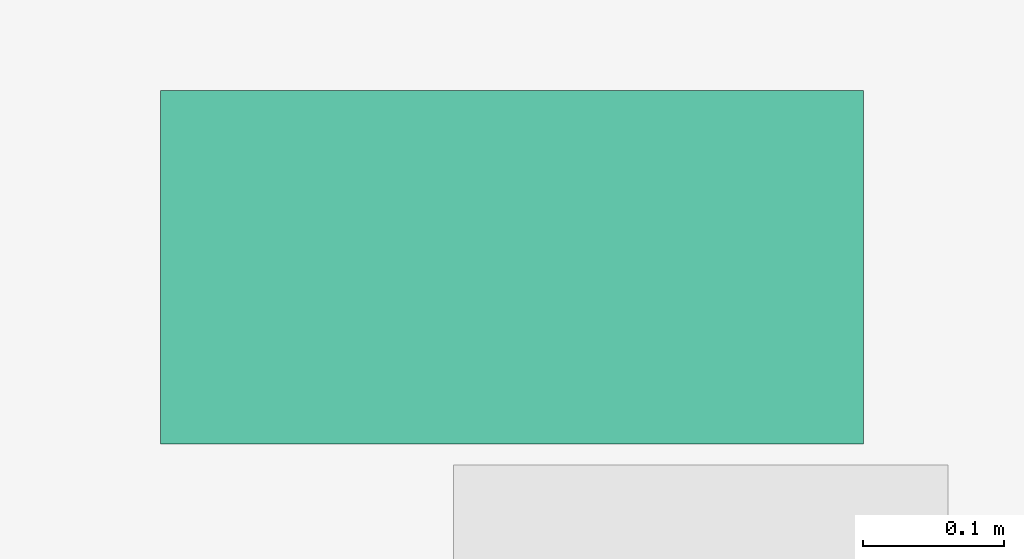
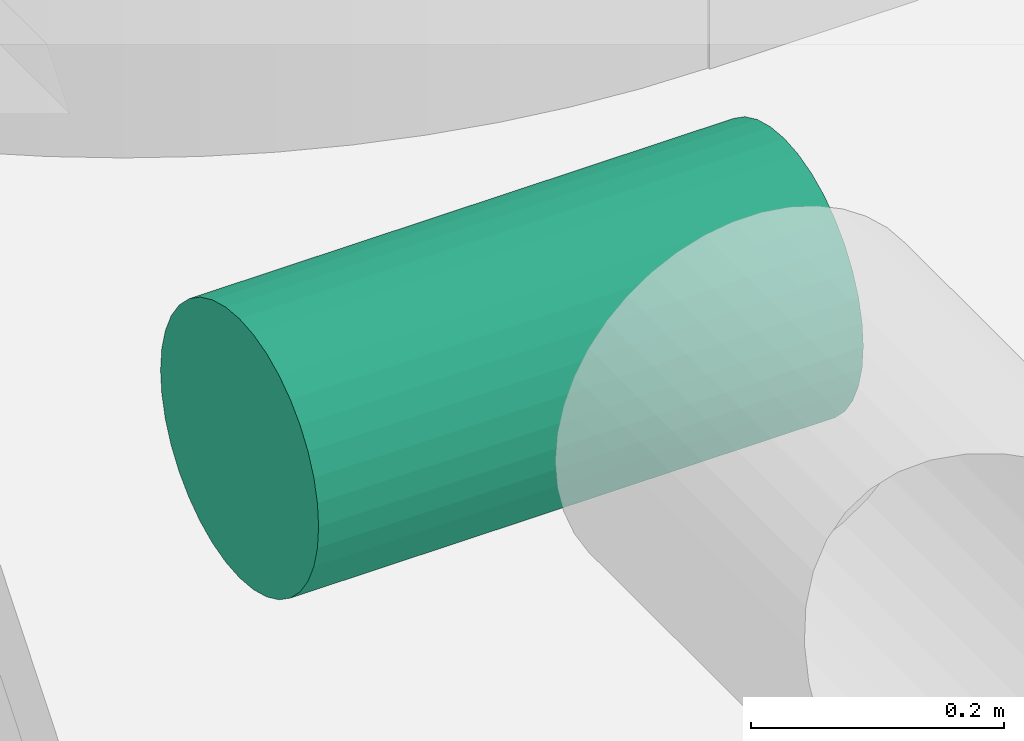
# One storey, part 82 of 128: 1 distribution control element.
"""IFC2X3 building model written with IfcOpenShell, lengths in millimetres."""

from ifc_helpers import new_model, entity, si_unit, converted_unit, derived_unit, direction, frame, origin, origin_2d_with_axis, place, context, subcontext, project, spatial, circle, extrude, source, transform, mapped, material, type_object, type_shapes, element, save


model = new_model("IFC2X3")

# Units and contexts
model_context = context("Model", 3, precision=0.01, world=origin(), true_north=direction((6.123031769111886e-17, 1.0)))
body_context = subcontext(model_context, "Body", "Model", "MODEL_VIEW")
ifc_project = project(units=[si_unit("LENGTHUNIT", "METRE", prefix="MILLI"), si_unit("AREAUNIT", "SQUARE_METRE"), si_unit("VOLUMEUNIT", "CUBIC_METRE"), converted_unit("PLANEANGLEUNIT", "DEGREE", entity("IfcRatioMeasure", 0.017453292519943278), si_unit("PLANEANGLEUNIT", "RADIAN"), dimensions=[0, 0, 0, 0, 0, 0, 0]), si_unit("MASSUNIT", "GRAM", prefix="KILO"), derived_unit("MASSDENSITYUNIT", [(si_unit("MASSUNIT", "GRAM", prefix="KILO"), 1), (si_unit("LENGTHUNIT", "METRE"), -3)]), derived_unit("IONCONCENTRATIONUNIT", [(si_unit("MASSUNIT", "GRAM", prefix="KILO"), 1), (si_unit("LENGTHUNIT", "METRE"), -3)]), derived_unit("MOMENTOFINERTIAUNIT", [(si_unit("LENGTHUNIT", "METRE"), 4)]), si_unit("TIMEUNIT", "SECOND"), si_unit("FREQUENCYUNIT", "HERTZ"), si_unit("THERMODYNAMICTEMPERATUREUNIT", "DEGREE_CELSIUS"), derived_unit("THERMALTRANSMITTANCEUNIT", [(si_unit("MASSUNIT", "GRAM", prefix="KILO"), 1), (si_unit("THERMODYNAMICTEMPERATUREUNIT", "KELVIN"), -1), (si_unit("TIMEUNIT", "SECOND"), -3)]), derived_unit("THERMALCONDUCTANCEUNIT", [(si_unit("MASSUNIT", "GRAM", prefix="KILO"), 1), (si_unit("THERMODYNAMICTEMPERATUREUNIT", "KELVIN"), -1), (si_unit("TIMEUNIT", "SECOND"), -3), (si_unit("LENGTHUNIT", "METRE"), 1)]), derived_unit("VOLUMETRICFLOWRATEUNIT", [(si_unit("LENGTHUNIT", "METRE"), 3), (si_unit("TIMEUNIT", "SECOND"), -1)]), derived_unit("MASSFLOWRATEUNIT", [(si_unit("MASSUNIT", "GRAM", prefix="KILO"), 1), (si_unit("TIMEUNIT", "SECOND"), -1)]), derived_unit("ROTATIONALFREQUENCYUNIT", [(si_unit("TIMEUNIT", "SECOND"), -1)]), si_unit("ELECTRICCURRENTUNIT", "AMPERE"), si_unit("ELECTRICVOLTAGEUNIT", "VOLT"), si_unit("POWERUNIT", "WATT"), si_unit("FORCEUNIT", "NEWTON", prefix="KILO"), si_unit("ILLUMINANCEUNIT", "LUX"), si_unit("LUMINOUSFLUXUNIT", "LUMEN"), si_unit("LUMINOUSINTENSITYUNIT", "CANDELA"), derived_unit("USERDEFINED", [(si_unit("MASSUNIT", "GRAM", prefix="KILO"), -1), (si_unit("LENGTHUNIT", "METRE"), -2), (si_unit("TIMEUNIT", "SECOND"), 3), (si_unit("LUMINOUSFLUXUNIT", "LUMEN"), 1)]), derived_unit("USERDEFINED", [(si_unit("MASSUNIT", "GRAM", prefix="KILO"), 1), (si_unit("TIMEUNIT", "SECOND"), -3), (si_unit("LENGTHUNIT", "METRE"), 3), (si_unit("ELECTRICCURRENTUNIT", "AMPERE"), -2)]), derived_unit("SOUNDPOWERUNIT", [(si_unit("MASSUNIT", "GRAM", prefix="KILO"), 1), (si_unit("TIMEUNIT", "SECOND"), -3), (si_unit("LENGTHUNIT", "METRE"), 2)]), derived_unit("SOUNDPRESSUREUNIT", [(si_unit("MASSUNIT", "GRAM", prefix="KILO"), 1), (si_unit("LENGTHUNIT", "METRE"), -1), (si_unit("TIMEUNIT", "SECOND"), -2)]), derived_unit("LINEARVELOCITYUNIT", [(si_unit("LENGTHUNIT", "METRE"), 1), (si_unit("TIMEUNIT", "SECOND"), -1)]), si_unit("PRESSUREUNIT", "PASCAL"), derived_unit("USERDEFINED", [(si_unit("MASSUNIT", "GRAM", prefix="KILO"), 1), (si_unit("LENGTHUNIT", "METRE"), -2), (si_unit("TIMEUNIT", "SECOND"), -2)]), derived_unit("LINEARFORCEUNIT", [(si_unit("MASSUNIT", "GRAM", prefix="KILO"), 1), (si_unit("TIMEUNIT", "SECOND"), -2)]), derived_unit("PLANARFORCEUNIT", [(si_unit("MASSUNIT", "GRAM", prefix="KILO"), 1), (si_unit("LENGTHUNIT", "METRE"), -1), (si_unit("TIMEUNIT", "SECOND"), -2)]), derived_unit("SPECIFICHEATCAPACITYUNIT", [(si_unit("THERMODYNAMICTEMPERATUREUNIT", "KELVIN"), -1), (si_unit("LENGTHUNIT", "METRE"), 2), (si_unit("TIMEUNIT", "SECOND"), -2)]), derived_unit("HEATINGVALUEUNIT", [(si_unit("LENGTHUNIT", "METRE"), 2), (si_unit("TIMEUNIT", "SECOND"), -2)]), derived_unit("VAPORPERMEABILITYUNIT", [(si_unit("LENGTHUNIT", "METRE"), -1), (si_unit("TIMEUNIT", "SECOND"), 1)]), derived_unit("DYNAMICVISCOSITYUNIT", [(si_unit("MASSUNIT", "GRAM", prefix="KILO"), 1), (si_unit("TIMEUNIT", "SECOND"), -1), (si_unit("LENGTHUNIT", "METRE"), -1)]), derived_unit("THERMALEXPANSIONCOEFFICIENTUNIT", [(si_unit("THERMODYNAMICTEMPERATUREUNIT", "KELVIN"), -1)]), derived_unit("MODULUSOFELASTICITYUNIT", [(si_unit("MASSUNIT", "GRAM", prefix="KILO"), 1), (si_unit("LENGTHUNIT", "METRE"), -1), (si_unit("TIMEUNIT", "SECOND"), -2)]), derived_unit("ISOTHERMALMOISTURECAPACITYUNIT", [(si_unit("LENGTHUNIT", "METRE"), 3), (si_unit("MASSUNIT", "GRAM", prefix="KILO"), -1)]), derived_unit("MOISTUREDIFFUSIVITYUNIT", [(si_unit("TIMEUNIT", "SECOND"), -1), (si_unit("LENGTHUNIT", "METRE"), 2)])], contexts=[model_context])

# Site, building, storey
site_placement = place(None, frame((0.0, 300.0, 0.0)))
site = spatial("IfcSite", under=ifc_project, at=site_placement, Name="<Kadastrale nummers>", CompositionType="ELEMENT")
building_placement = place(site_placement, origin())
building = spatial("IfcBuilding", under=site, at=building_placement, CompositionType="ELEMENT")
storey_placement = place(building_placement, frame((0.0, 0.0, 3560.0000331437)))
storey = spatial("IfcBuildingStorey", under=building, at=storey_placement, Name="01 eerste verdieping", CompositionType="ELEMENT", Elevation=3560.0000331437)

# Distribution control element
ifc_material = material(Name="<Unnamed>")
controller_type = type_object("IfcControllerType", Name="57_luchtbehandelings buis:Ø 250 op 2946", PredefinedType="NOTDEFINED", material=ifc_material)
shared_shape = source(origin(), body_context, "Body", "SweptSolid", [
    extrude(circle(Radius=125.00000000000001, at=origin_2d_with_axis()), frame((0.0, 0.0, 2800.0), z_axis=(1.0, 0.0, 0.0), x_axis=(0.0, 1.0, 0.0)), (0.0, 0.0, 1.0), 497.50076252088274),
])
type_shapes(controller_type, [shared_shape])
distribution_control_element_placement = place(storey_placement, frame((37514.999474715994, 40010.0, 90.00000187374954), z_axis=(0.0, 0.0, 1.0), x_axis=(-1.0, 0.0, 0.0)))
element("IfcDistributionControlElement", 1, at=distribution_control_element_placement, inside=storey, type_object=controller_type, material=ifc_material, Name="57_luchtbehandelings buis:Ø 250 op 2946", ObjectType="57_luchtbehandelings buis:Ø 250 op 2946", context=body_context, shape_type="MappedRepresentation", body=[
    mapped(shared_shape, transform((0.0, 0.0, 0.0), scale=1.0)),
])

save(model, "model.ifc")
